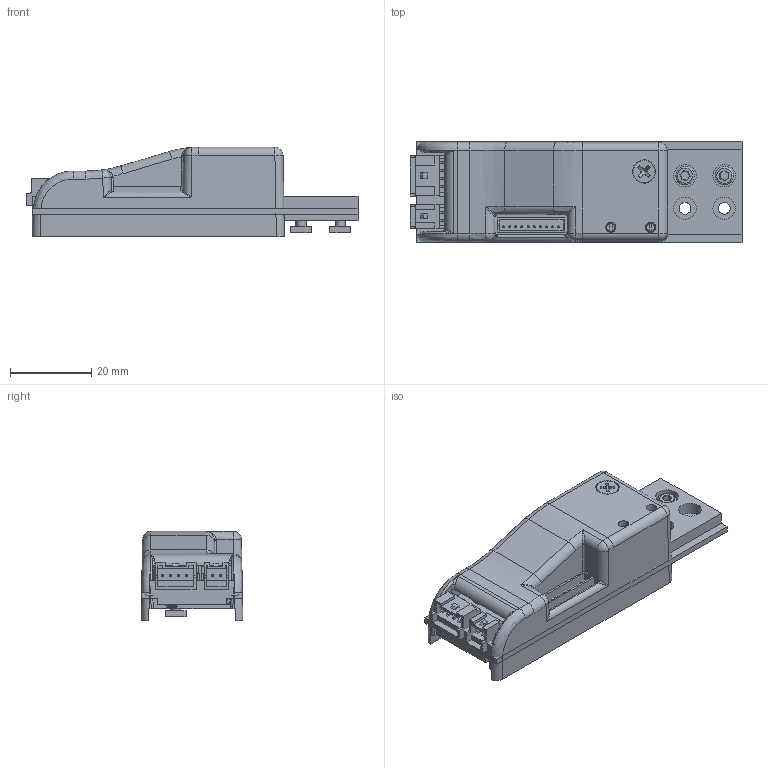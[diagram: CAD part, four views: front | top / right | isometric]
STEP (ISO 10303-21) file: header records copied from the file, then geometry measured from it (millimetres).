
FILE_DESCRIPTION((''),'2;1');
FILE_NAME('Q:\LCR-DUMMY-FILES\ION-DRIVE-006-2349-01-SIDEA.stp','2011-01-20T11:30:01',('MB20050'),(''),'Autodesk Inventor 2010','Autodesk Inventor 2010','');
FILE_SCHEMA(('AUTOMOTIVE_DESIGN { 1 0 10303 214 1 1 1 1 }'));
Length unit declared in the file: inch
Products named in the file (1): ION-DRIVE-006-2349-01-SIDEA
Bounding box: 81.56 x 25 x 22 mm (x, y, z)
Surface area: 15124 mm2 (no closed solid volume)
Topology: 0 solids, 68 shells, 327 faces, 1037 edges, 766 vertices
Faces by surface type: plane 227, cylinder 59, bspline 24, cone 9, sphere 6, torus 2
Full cylindrical faces by diameter (mm): 2.159 x1, 2.459 x1, 2.5 x2, 2.9 x4, 5.5 x4, 5.563 x1, 6.3 x1
Entity records: 13318 total; most frequent: CARTESIAN_POINT 3926, DIRECTION 1697, ORIENTED_EDGE 1576, EDGE_CURVE 1004, VERTEX_POINT 762, VECTOR 653, LINE 653, AXIS2_PLACEMENT_3D 522
